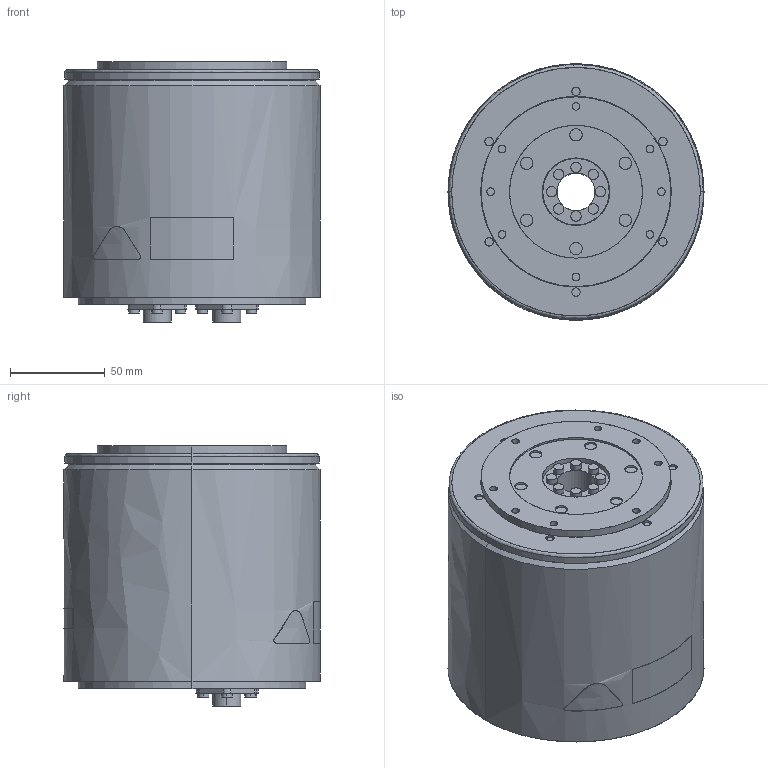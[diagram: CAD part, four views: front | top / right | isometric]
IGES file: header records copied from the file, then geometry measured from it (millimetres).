
Start section: SolidWorks IGES file using analytic representation for surfaces
Bounding box: 135 x 135.2 x 137.1 mm (x, y, z)
Surface area: 95853.5 mm2 (no closed solid volume)
Topology: 0 solids, 0 shells, 323 faces, 6598 edges, 6598 vertices
Faces by surface type: revolution 184, bspline 139
